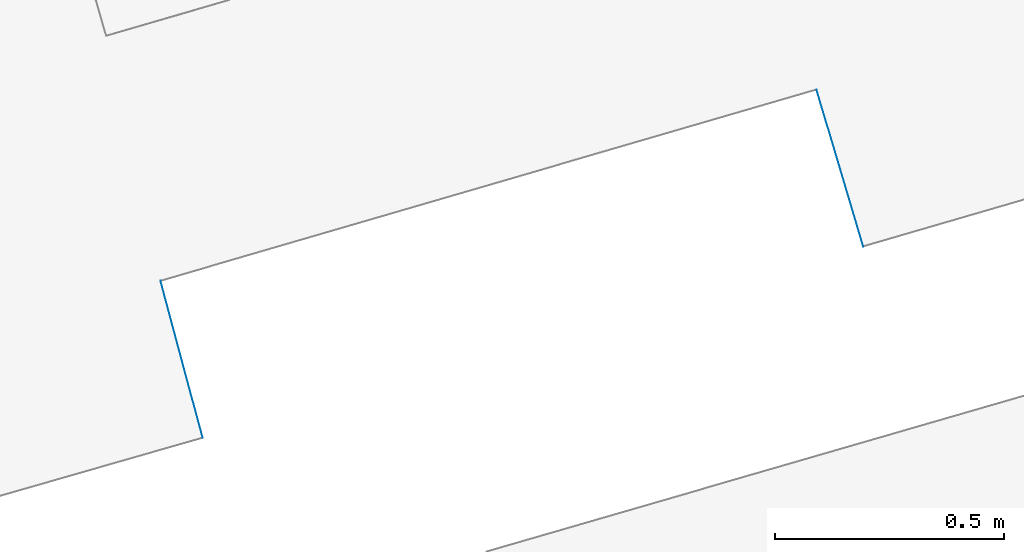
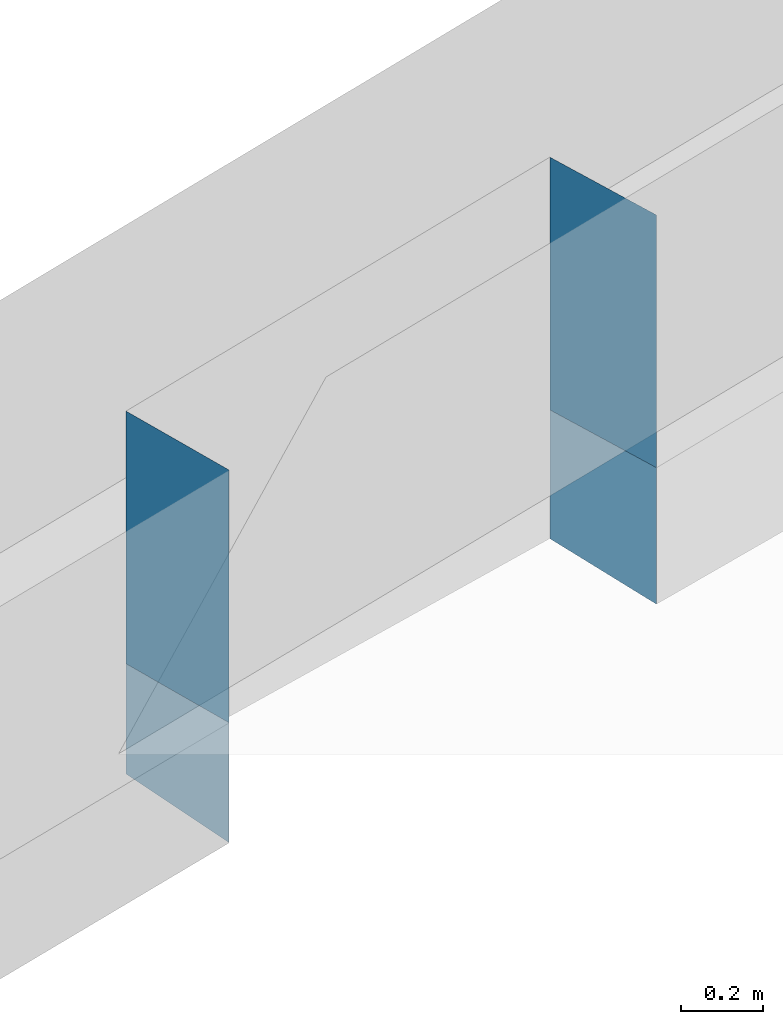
# Not in any storey, part 48 of 57: 6 walls.
"""IFC4 building model written with IfcOpenShell, lengths in metres."""

from ifc_helpers import new_model, entity, si_unit, converted_unit, origin, place, context, subcontext, project, spatial, face_set, surface_model, element, save


model = new_model("IFC4")

# Units and contexts
model_context = context("Model", 3, precision=1e-05, world=origin())
body_context = subcontext(model_context, "Body", "Model", "MODEL_VIEW")
ifc_project = project(units=[converted_unit("PLANEANGLEUNIT", "DEGREE", entity("IfcRatioMeasure", 0.0174532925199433), si_unit("PLANEANGLEUNIT", "RADIAN"), dimensions=[0, 0, 0, 0, 0, 0, 0]), si_unit("AREAUNIT", "SQUARE_METRE"), si_unit("LENGTHUNIT", "METRE")], contexts=[model_context])

# Site, building
site_placement = place(None, origin())
site = spatial("IfcSite", under=ifc_project, at=site_placement, Name="_site")
building_placement = place(site_placement, origin())
building = spatial("IfcBuilding", under=site, at=building_placement, Name="_building")

# Walls
wall_1_placement = place(building_placement, origin())
element("IfcWall", 1, at=wall_1_placement, inside=building, Name="Wall", PredefinedType="NOTDEFINED", context=body_context, shape_type="SurfaceModel", body=[
    surface_model("IfcFaceBasedSurfaceModel", [(159.346, 156.521, 117.65), (159.244, 156.863, 117.65), (159.244, 156.863, 117.268), (159.346, 156.521, 117.245)], [face_set([[[0, 1, 2, 3]]])]),
])
wall_2_placement = place(building_placement, origin())
element("IfcWall", 2, at=wall_2_placement, inside=building, Name="Wall", PredefinedType="NOTDEFINED", context=body_context, shape_type="SurfaceModel", body=[
    surface_model("IfcFaceBasedSurfaceModel", [(157.814, 156.446, 117.65), (157.906, 156.104, 117.65), (157.906, 156.104, 117.294), (157.814, 156.446, 117.323)], [face_set([[[0, 1, 2, 3]]])]),
])
wall_3_placement = place(building_placement, origin())
element("IfcWall", 3, at=wall_3_placement, inside=building, Name="Wall", PredefinedType="NOTDEFINED", context=body_context, shape_type="SurfaceModel", body=[
    surface_model("IfcFaceBasedSurfaceModel", [(157.814, 156.446, 117.65), (157.906, 156.104, 117.65), (157.906, 156.104, 118.4), (157.814, 156.446, 118.4)], [face_set([[[0, 1, 2, 3]]])]),
])
wall_4_placement = place(building_placement, origin())
element("IfcWall", 4, at=wall_4_placement, inside=building, Name="Wall", PredefinedType="NOTDEFINED", context=body_context, shape_type="SurfaceModel", body=[
    surface_model("IfcFaceBasedSurfaceModel", [(159.346, 156.521, 117.65), (159.244, 156.863, 117.65), (159.244, 156.863, 118.4), (159.346, 156.521, 118.4)], [face_set([[[0, 1, 2, 3]]])]),
])
wall_5_placement = place(building_placement, origin())
element("IfcWall", 5, at=wall_5_placement, inside=building, Name="Wall", PredefinedType="NOTDEFINED", context=body_context, shape_type="SurfaceModel", body=[
    surface_model("IfcFaceBasedSurfaceModel", [(157.814, 156.446, 117.65), (157.906, 156.104, 117.65), (157.906, 156.104, 118.4), (157.814, 156.446, 118.4)], [face_set([[[0, 1, 2, 3]]])]),
])
wall_6_placement = place(building_placement, origin())
element("IfcWall", 6, at=wall_6_placement, inside=building, Name="Wall", PredefinedType="NOTDEFINED", context=body_context, shape_type="SurfaceModel", body=[
    surface_model("IfcFaceBasedSurfaceModel", [(159.346, 156.521, 117.65), (159.244, 156.863, 117.65), (159.244, 156.863, 118.4), (159.346, 156.521, 118.4)], [face_set([[[0, 1, 2, 3]]])]),
])

save(model, "model.ifc")
